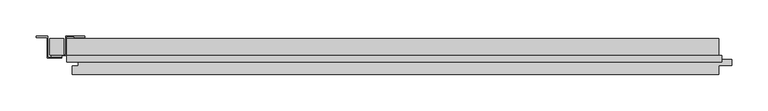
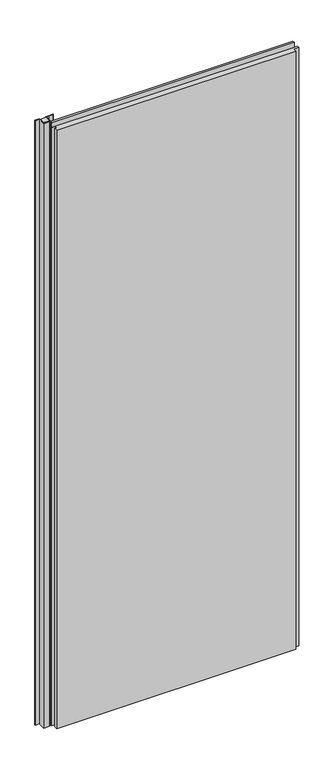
"""IFC4 building model written with IfcOpenShell, lengths in millimetres: plate geometry, Trimo_Qbiss Screen_Normal Panel-VERTICAL : HR - FB."""

from ifc_helpers import new_model, si_unit, frame, origin, place, context, project, spatial, polyline, outline, extrude, source, transform, mapped, element, save


def plate_8aff69ed(model_context):
    return source(origin(), model_context, "Body", "SweptSolid", [
        extrude(outline(polyline([(-436.8, 126.0), (-436.8, 103.2), (-455.8, 103.2), (-455.8, 126.0), (-436.8, 126.0)])), frame((0.0, 0.0, 12.5), z_axis=(0.0, 0.0, 1.0), x_axis=(1.0, 0.0, 0.0)), (0.0, 0.0, 1.0), 2400.0),
        extrude(outline(polyline([(-407.0, 127.6), (-422.0, 127.6), (-422.0, 128.4), (-407.8, 128.4), (-407.8, 129.2), (-433.0, 129.2), (-433.0, 102.4), (-453.2, 102.4), (-453.2, 101.6), (-439.0, 101.6), (-439.0, 100.8), (-454.0, 100.8), (-454.0, 103.2), (-433.8, 103.2), (-433.8, 130.0), (-407.0, 130.0), (-407.0, 127.6)])), frame((0.0, 0.0, 12.5), z_axis=(0.0, 0.0, 1.0), x_axis=(1.0, 0.0, 0.0)), (0.0, 0.0, 1.0), 2400.0),
        extrude(outline(polyline([(-439.0, 100.0), (-439.0, 99.2), (-459.6, 99.2), (-459.6, 129.2), (-474.2, 129.2), (-474.2, 128.4), (-460.0, 128.4), (-460.0, 127.6), (-475.0, 127.6), (-475.0, 130.0), (-458.8, 130.0), (-458.8, 100.0), (-439.0, 100.0)])), frame((0.0, 0.0, 12.5), z_axis=(0.0, 0.0, 1.0), x_axis=(1.0, 0.0, 0.0)), (0.0, 0.0, 1.0), 2400.0),
        extrude(outline(polyline([(-432.0, 93.9), (-432.0, 102.6), (477.0, 102.6), (477.0, 93.9), (-432.0, 93.9)])), frame((0.0, 0.0, 2390.5), z_axis=(0.0, 0.0, 1.0), x_axis=(1.0, 0.0, 0.0)), (0.0, 0.0, 1.0), 19.0),
        extrude(outline(polyline([(473.0, 97.0), (491.5, 97.0), (491.5, 89.0), (473.0, 89.0), (473.0, 76.0), (-425.0, 76.0), (-425.0, 88.0), (-416.5, 88.0), (-416.5, 98.0), (-432.0, 98.0), (-432.0, 126.0), (473.0, 126.0), (473.0, 97.0)])), frame((0.0, 0.0, 12.5), z_axis=(0.0, 0.0, 1.0), x_axis=(1.0, 0.0, 0.0)), (0.0, 0.0, 1.0), 2375.0),
    ])


if __name__ == "__main__":
    model = new_model("IFC4")
    model_context = context("Model", 3, world=origin())
    ifc_project = project(units=[si_unit("LENGTHUNIT", "METRE", prefix="MILLI")], contexts=[model_context])
    site = spatial("IfcSite", under=ifc_project)
    building = spatial("IfcBuilding", under=site)
    placement = place(None, origin())
    plate_shape = plate_8aff69ed(model_context)
    element("IfcPlate", 1, ObjectType="Trimo_Qbiss Screen_Normal Panel-VERTICAL : HR - FB", at=placement, inside=building, context=model_context, shape_type="MappedRepresentation", body=[
        mapped(plate_shape, transform((0.0, 0.0, 0.0), x_axis=(1.0, 0.0, 0.0), y_axis=(0.0, 1.0, 0.0), z_axis=(0.0, 0.0, 1.0))),
    ])
    save(model, "model.ifc")
